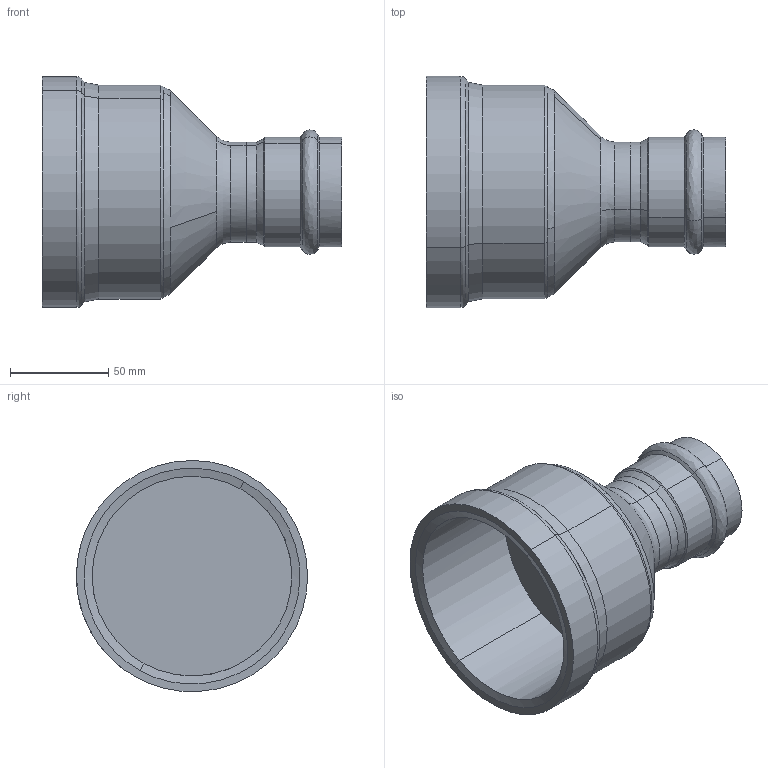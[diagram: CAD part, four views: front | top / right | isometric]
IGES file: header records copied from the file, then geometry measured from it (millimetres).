
Start section: 3D InterOp IGES (Version 25 0 1), Spatial Corp. Copyright (c) 1999-2007.
Global section: file name: pim0004390.igs; native system: Spatial Corp.; preprocessor: 3D InterOp ACIS/IGES; author: Cad-Pim; organization: TransMagic, Inc.; date: 20150430.133236; units: millimetre
Bounding box: 152 x 117.5 x 117.39 mm (x, y, z)
Volume: 342672.4 mm3; surface area: 81982.2 mm2
Topology: 1 solids, 1 shells, 47 faces, 125 edges, 81 vertices
Faces by surface type: cone 16, cylinder 16, bspline 15
